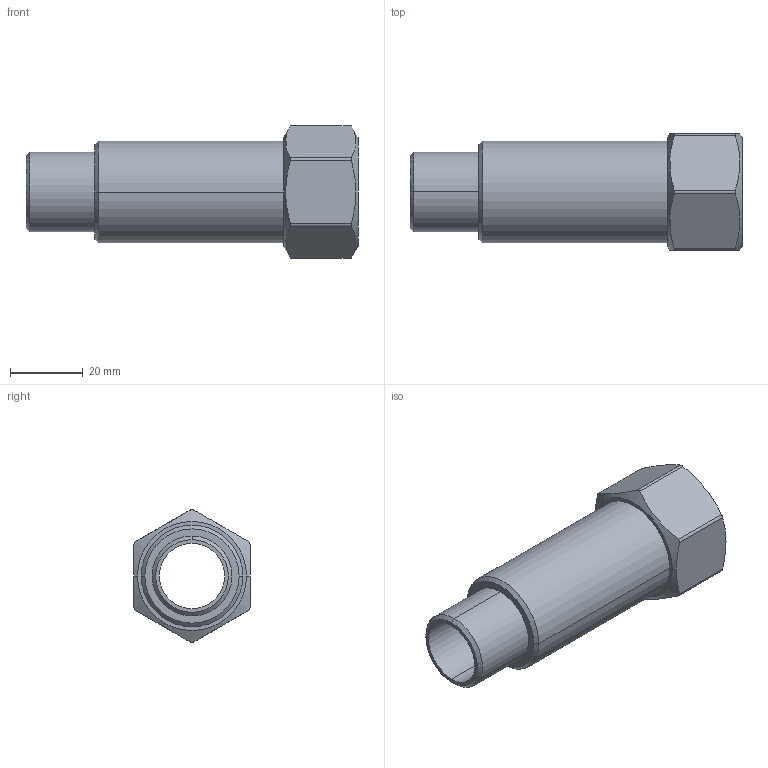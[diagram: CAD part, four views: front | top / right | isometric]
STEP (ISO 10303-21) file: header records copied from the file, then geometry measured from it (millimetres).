
FILE_DESCRIPTION (( 'STEP AP214' ), '1' );
FILE_NAME ('R237.028.012.STEP', '2019-10-24T14:48:04', ( '' ), ( '' ), 'SwSTEP 2.0', 'SolidWorks 2018', '' );
FILE_SCHEMA (( 'AUTOMOTIVE_DESIGN' ));
Length unit declared in the file: millimetre
Products named in the file (1): R237.028.012
Bounding box: 91.5 x 32 x 36.64 mm (x, y, z)
Volume: 33526.4 mm3; surface area: 14346.7 mm2
Topology: 1 solids, 1 shells, 33 faces, 80 edges, 52 vertices
Faces by surface type: cylinder 14, plane 11, cone 8
Entity records: 1174 total; most frequent: CARTESIAN_POINT 370, ORIENTED_EDGE 160, DIRECTION 144, EDGE_CURVE 80, AXIS2_PLACEMENT_3D 58, VERTEX_POINT 52, EDGE_LOOP 38, FACE_OUTER_BOUND 33
